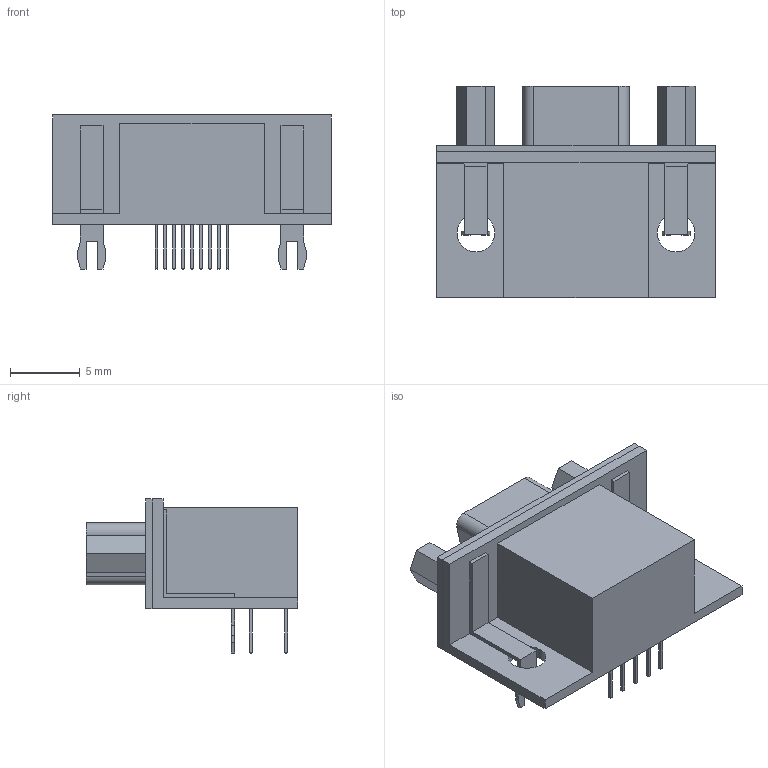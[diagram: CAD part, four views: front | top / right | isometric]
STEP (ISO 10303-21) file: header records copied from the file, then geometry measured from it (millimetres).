
FILE_DESCRIPTION(('STEP AP214'),'1');
FILE_NAME('CONN_381-009_NRC','2026-05-28T12:12:27',(''),(''),'','','');
FILE_SCHEMA(('AUTOMOTIVE_DESIGN'));
Length unit declared in the file: millimetre
Products named in the file (1): product
Bounding box: 19.94 x 15.11 x 11.02 mm (x, y, z)
Volume: 1045.1 mm3; surface area: 1661 mm2
Topology: 22 solids, 22 shells, 280 faces, 618 edges, 388 vertices
Faces by surface type: plane 264, cylinder 16
Entity records: 7290 total; most frequent: ORIENTED_EDGE 1236, DIRECTION 1212, CARTESIAN_POINT 685, EDGE_CURVE 618, LINE 586, VECTOR 586, VERTEX_POINT 388, AXIS2_PLACEMENT_3D 313
